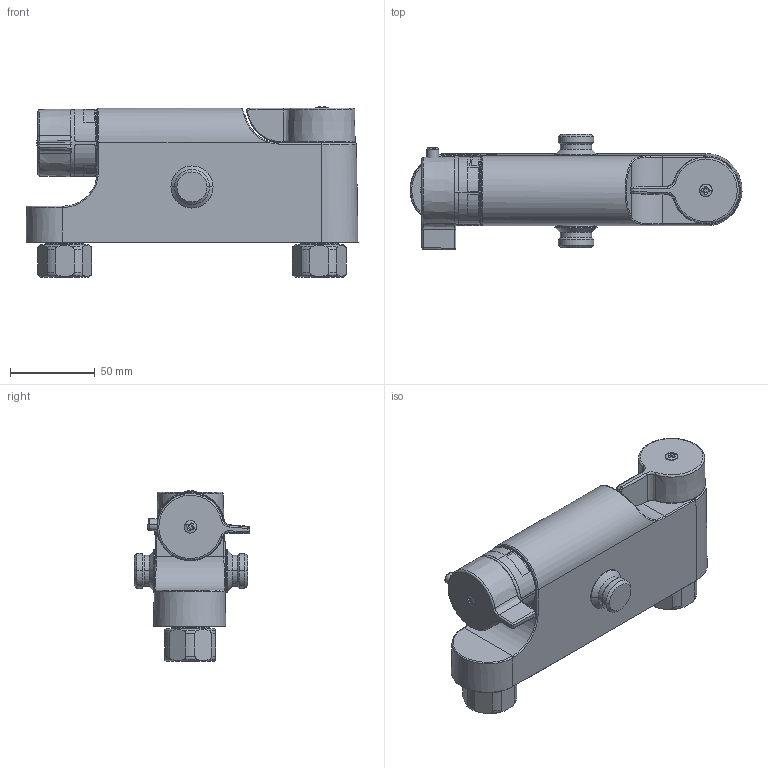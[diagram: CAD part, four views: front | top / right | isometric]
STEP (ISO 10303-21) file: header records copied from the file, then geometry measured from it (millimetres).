
FILE_DESCRIPTION((''),'2;1');
FILE_NAME('27651--00_SW0001','2026-10-07T10:53:22',('simi1'),(''),'CREO PARAMETRIC BY PTC INC, 2022244','CREO PARAMETRIC BY PTC INC, 2022244','');
FILE_SCHEMA(('CONFIG_CONTROL_DESIGN'));
Length unit declared in the file: millimetre
Products named in the file (1): 27651--00_SW0001
Bounding box: 195.62 x 68.16 x 100.47 mm (x, y, z)
Surface area: 75314.1 mm2 (no closed solid volume)
Topology: 0 solids, 28 shells, 250 faces, 715 edges, 481 vertices
Faces by surface type: plane 70, cylinder 69, bspline 41, torus 36, cone 26, sphere 8
Entity records: 12024 total; most frequent: CARTESIAN_POINT 5927, ORIENTED_EDGE 1231, DIRECTION 1212, EDGE_CURVE 713, AXIS2_PLACEMENT_3D 493, VERTEX_POINT 481, CIRCLE 284, EDGE_LOOP 250
